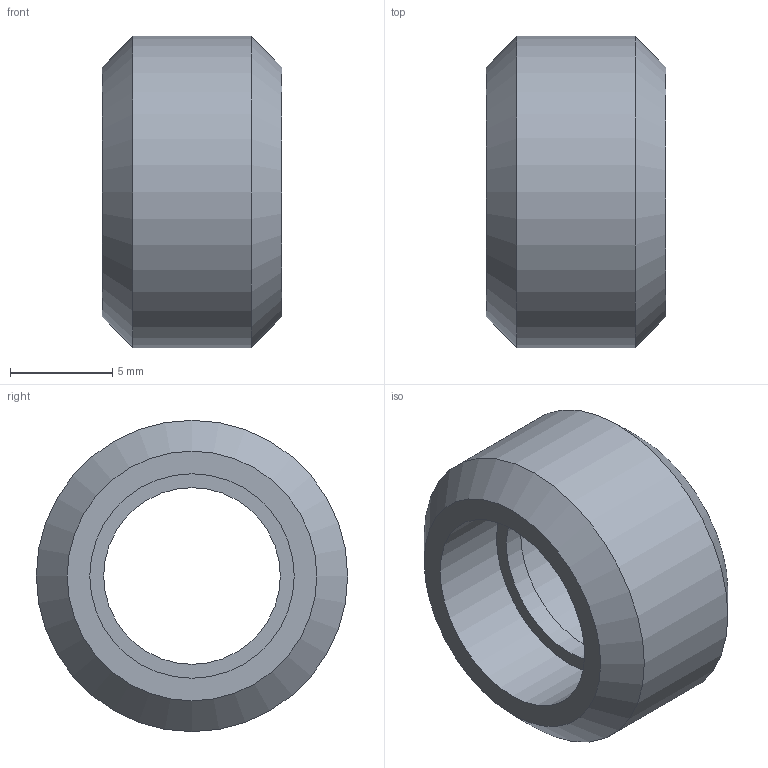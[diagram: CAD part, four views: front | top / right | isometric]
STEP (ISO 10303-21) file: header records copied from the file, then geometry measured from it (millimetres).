
FILE_DESCRIPTION(('FreeCAD Model'),'2;1');
FILE_NAME('Open CASCADE Shape Model','2021-05-03T16:14:24',('Author'),( ''),'Open CASCADE STEP processor 7.5','FreeCAD','Unknown');
FILE_SCHEMA(('AUTOMOTIVE_DESIGN { 1 0 10303 214 1 1 1 1 }'));
Length unit declared in the file: millimetre
Products named in the file (1): Delrin Mini V Wheel v1
Bounding box: 8.8 x 15.23 x 15.23 mm (x, y, z)
Volume: 830 mm3; surface area: 849.7 mm2
Topology: 1 solids, 1 shells, 10 faces, 25 edges, 19 vertices
Faces by surface type: plane 4, cylinder 4, cone 2
Full cylindrical faces by diameter (mm): 8.64 x1, 10 x2, 15.23 x1
Entity records: 699 total; most frequent: CARTESIAN_POINT 153, DIRECTION 108, ORIENTED_EDGE 50, PCURVE 50, DEFINITIONAL_REPRESENTATION 50, LINE 41, VECTOR 41, AXIS2_PLACEMENT_3D 30
